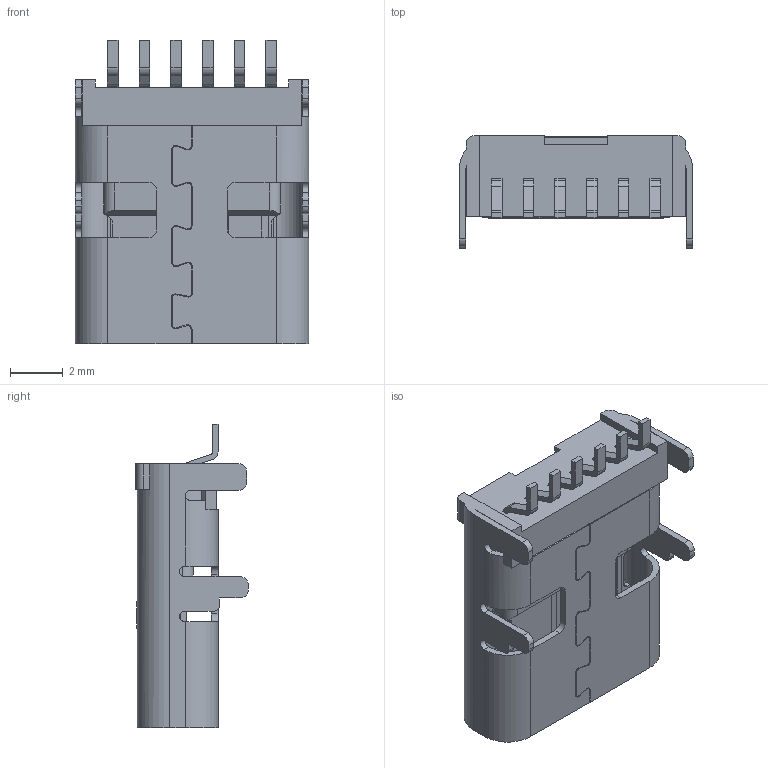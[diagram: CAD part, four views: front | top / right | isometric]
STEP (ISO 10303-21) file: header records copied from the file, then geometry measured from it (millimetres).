
FILE_DESCRIPTION((''),'2;1');
FILE_NAME('ASM0001_ASM','2024-01-26T',('WYH'),(''),'PRO/ENGINEER BY PARAMETRIC TECHNOLOGY CORPORATION, 2013040','PRO/ENGINEER BY PARAMETRIC TECHNOLOGY CORPORATION, 2013040','');
FILE_SCHEMA(('CONFIG_CONTROL_DESIGN'));
Length unit declared in the file: millimetre
Products named in the file (1): ASM0001_ASM
Bounding box: 8.84 x 4.25 x 11.5 mm (x, y, z)
Volume: 140.5 mm3; surface area: 488.7 mm2
Topology: 1 solids, 3 shells, 423 faces, 1204 edges, 795 vertices
Faces by surface type: plane 288, cylinder 135
Entity records: 13816 total; most frequent: CARTESIAN_POINT 2518, ORIENTED_EDGE 2408, DIRECTION 2309, EDGE_CURVE 1204, VECTOR 907, LINE 907, VERTEX_POINT 795, AXIS2_PLACEMENT_3D 701
